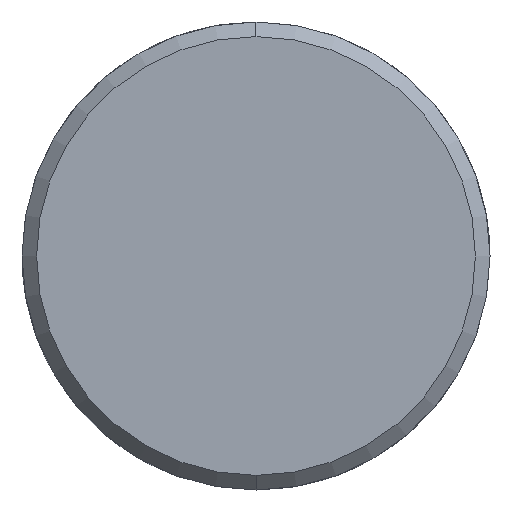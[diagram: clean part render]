
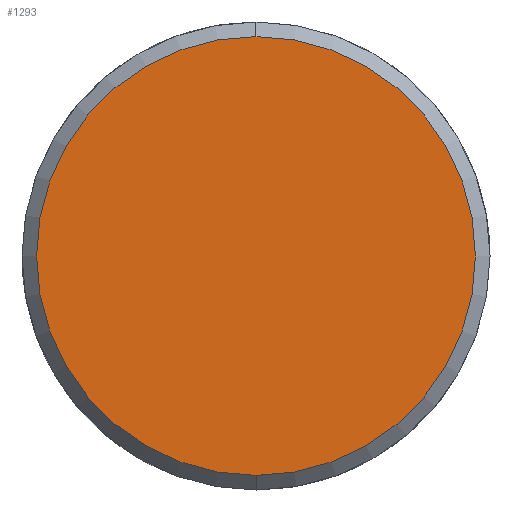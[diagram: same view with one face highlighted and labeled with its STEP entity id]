
A CAD part, left-side view. The second image highlights one B-rep face of the part: STEP entity #1293.
In plain terms, the highlighted planar face has unit normal (-1, 0, 0).
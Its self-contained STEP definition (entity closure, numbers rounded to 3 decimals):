
#1225=CARTESIAN_POINT('Vertex',(-6.,0.,-15.)) ;
#1228=CARTESIAN_POINT('Axis2P3D Location',(-6.,0.,0.)) ;
#1232=CARTESIAN_POINT('Vertex',(-6.,15.,0.)) ;
#1235=CARTESIAN_POINT('Axis2P3D Location',(-6.,0.,0.)) ;
#1239=CARTESIAN_POINT('Vertex',(-6.,0.,15.)) ;
#1261=CARTESIAN_POINT('Axis2P3D Location',(-6.,0.,0.)) ;
#1265=CARTESIAN_POINT('Vertex',(-6.,-15.,0.)) ;
#1268=CARTESIAN_POINT('Axis2P3D Location',(-6.,0.,0.)) ;
#1282=CARTESIAN_POINT('Axis2P3D Location',(-6.,0.,0.)) ;
#1229=DIRECTION('Axis2P3D Direction',(1.,0.,-0.)) ;
#1236=DIRECTION('Axis2P3D Direction',(1.,0.,-0.)) ;
#1262=DIRECTION('Axis2P3D Direction',(1.,0.,-0.)) ;
#1269=DIRECTION('Axis2P3D Direction',(1.,0.,-0.)) ;
#1283=DIRECTION('Axis2P3D Direction',(1.,0.,-0.)) ;
#1284=DIRECTION('Axis2P3D XDirection',(-0.,0.,-1.)) ;
#1230=AXIS2_PLACEMENT_3D('Circle Axis2P3D',#1228,#1229,$) ;
#1237=AXIS2_PLACEMENT_3D('Circle Axis2P3D',#1235,#1236,$) ;
#1263=AXIS2_PLACEMENT_3D('Circle Axis2P3D',#1261,#1262,$) ;
#1270=AXIS2_PLACEMENT_3D('Circle Axis2P3D',#1268,#1269,$) ;
#1285=AXIS2_PLACEMENT_3D('Plane Axis2P3D',#1282,#1283,#1284) ;
#1288=ORIENTED_EDGE('',*,*,#1234,.F.) ;
#1289=ORIENTED_EDGE('',*,*,#1272,.F.) ;
#1290=ORIENTED_EDGE('',*,*,#1267,.F.) ;
#1291=ORIENTED_EDGE('',*,*,#1241,.F.) ;
#1293=ADVANCED_FACE('351-20X66X140',(#1292),#1286,.F.) ;
#1231=CIRCLE('generated circle',#1230,15.) ;
#1238=CIRCLE('generated circle',#1237,15.) ;
#1264=CIRCLE('generated circle',#1263,15.) ;
#1271=CIRCLE('generated circle',#1270,15.) ;
#1234=EDGE_CURVE('',#1226,#1233,#1231,.T.) ;
#1241=EDGE_CURVE('',#1233,#1240,#1238,.T.) ;
#1267=EDGE_CURVE('',#1240,#1266,#1264,.T.) ;
#1272=EDGE_CURVE('',#1266,#1226,#1271,.T.) ;
#1287=EDGE_LOOP('',(#1288,#1289,#1290,#1291)) ;
#1292=FACE_OUTER_BOUND('',#1287,.T.) ;
#1286=PLANE('Plane',#1285) ;
#1226=VERTEX_POINT('',#1225) ;
#1233=VERTEX_POINT('',#1232) ;
#1240=VERTEX_POINT('',#1239) ;
#1266=VERTEX_POINT('',#1265) ;
